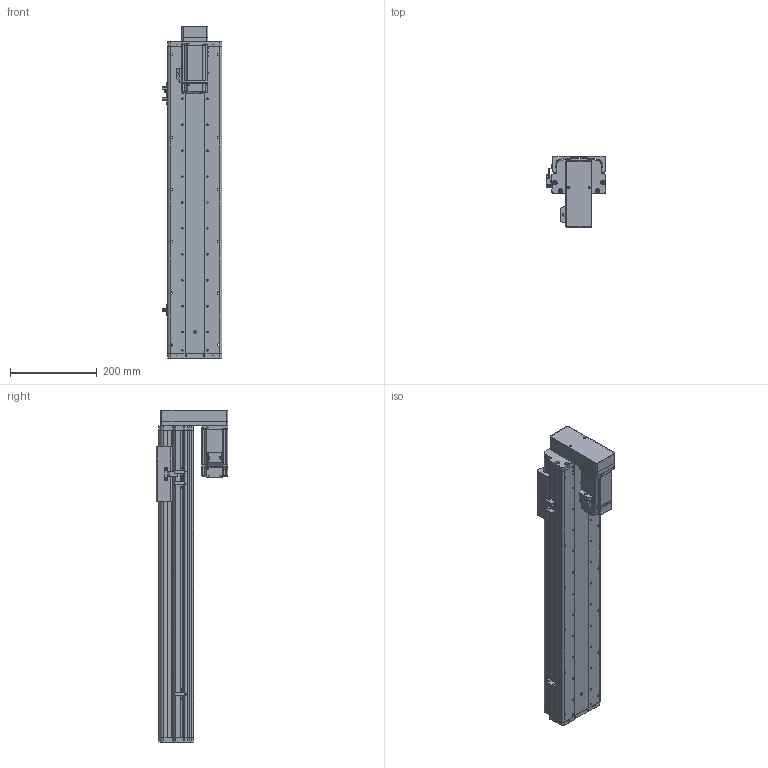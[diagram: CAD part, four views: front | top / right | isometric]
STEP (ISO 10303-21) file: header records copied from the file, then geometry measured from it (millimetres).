
FILE_DESCRIPTION (( 'STEP AP214' ), '1' );
FILE_NAME ('KSD125S-S500-MD-CM.STEP', '2017-10-21T08:03:10', ( '微软用户' ), ( '微软中国' ), 'SwSTEP 2.0', 'SolidWorks 2014', '' );
FILE_SCHEMA (( 'AUTOMOTIVE_DESIGN' ));
Length unit declared in the file: millimetre
Products named in the file (16): 125宽马达安装板连板上下折丝杆同步带; 125遵悵誘欶奻狟殏; HTPA30S3M150_A_H6_a佪裝蚚; HTPA30S3M150_A_H6_a萇儂蚚; MHMD042G1CA_2_03; 拸萇儂釱滅袉菜; 拸萇儂釱滅袉菜-1; 覜茼え68遵圉猾敕; U倰嫖萇假蚾璃; U倰嫖萇EEㄜSX672; ヶ傷啣-125遵耀郪; KSD125-賑雄釱1; KSD125S-500俴最佪裝菁啣; KSD125S-500俴最佪裝滅鳥裔; 125-帣傷啣1; KSD125S-S500-MD-CM
Assembly tree (19 placements, depth 2):
  KSD125S-S500-MD-CM
    125-帣傷啣1
    KSD125S-500俴最佪裝滅鳥裔
    KSD125S-500俴最佪裝菁啣
    KSD125-賑雄釱1
    ヶ傷啣-125遵耀郪
    U倰嫖萇EEㄜSX672  x3
    U倰嫖萇假蚾璃  x3
    覜茼え68遵圉猾敕
    拸萇儂釱滅袉菜-1
    拸萇儂釱滅袉菜
    MHMD042G1CA_2_03
    HTPA30S3M150_A_H6_a萇儂蚚
    HTPA30S3M150_A_H6_a佪裝蚚
    125遵悵誘欶奻狟殏
    125宽马达安装板连板上下折丝杆同步带
Bounding box: 138.7 x 165 x 767.5 mm (x, y, z)
Volume: 2616544.2 mm3; surface area: 903426.8 mm2
Topology: 18 solids, 21 shells, 2183 faces, 6327 edges, 4173 vertices
Faces by surface type: cylinder 1362, plane 680, cone 119, bspline 22
Entity records: 78107 total; most frequent: CARTESIAN_POINT 15637, DIRECTION 12001, ORIENTED_EDGE 11162, EDGE_CURVE 5659, AXIS2_PLACEMENT_3D 4635, VERTEX_POINT 3765, LINE 2731, VECTOR 2731
